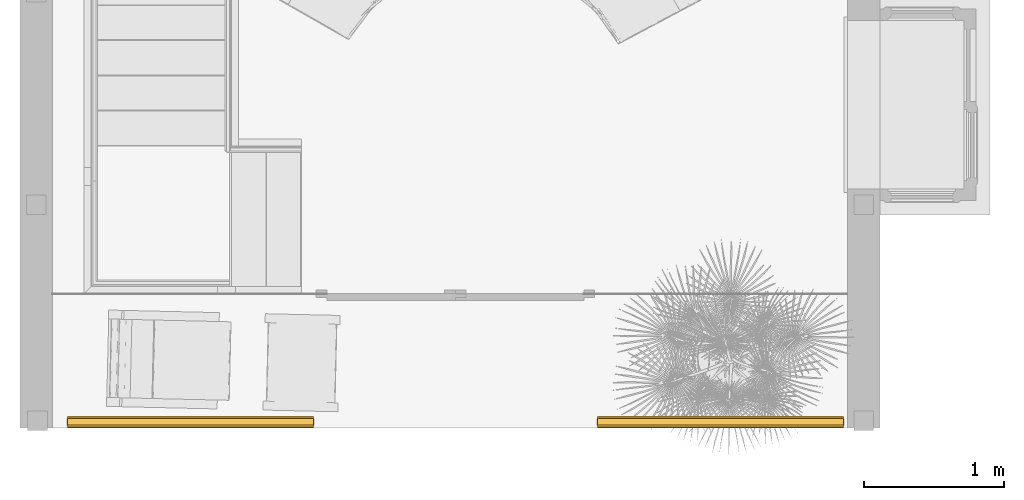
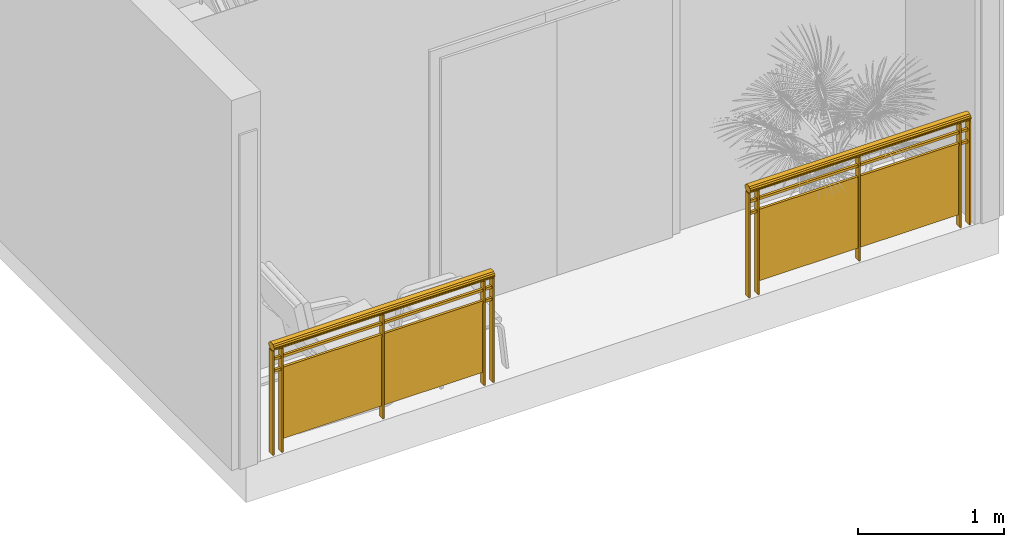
# One storey, part 4 of 7: 2 railings.
"""IFC2X3 building model written with IfcOpenShell, lengths in metres."""

from ifc_helpers import new_model, entity, si_unit, converted_unit, derived_unit, direction, frame, frame_2d, origin, origin_2d_with_axis, place, context, subcontext, project, spatial, polyline, rectangle, outline, extrude, material, material_list, type_object, element, save


model = new_model("IFC2X3")

# Units and contexts
model_context = context("Model", 3, precision=1e-05, world=origin(), true_north=direction((6.123233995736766e-17, 1.0)))
body_context = subcontext(model_context, "Body", "Model", "MODEL_VIEW")
ifc_project = project(units=[si_unit("LENGTHUNIT", "METRE"), si_unit("AREAUNIT", "SQUARE_METRE"), converted_unit("PLANEANGLEUNIT", "DEGREE", entity("IfcPlaneAngleMeasure", 0.017453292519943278), si_unit("PLANEANGLEUNIT", "RADIAN"), dimensions=[0, 0, 0, 0, 0, 0, 0]), derived_unit("THERMALTRANSMITTANCEUNIT", [(si_unit("MASSUNIT", "GRAM", prefix="KILO"), 1), (si_unit("THERMODYNAMICTEMPERATUREUNIT", "KELVIN"), -1), (si_unit("TIMEUNIT", "SECOND"), -3)])], contexts=[model_context])

# Site, building, storey
site_placement = place(None, origin())
site = spatial("IfcSite", under=ifc_project, at=site_placement, Name="Default", CompositionType="ELEMENT")
building_placement = place(site_placement, origin())
building = spatial("IfcBuilding", under=site, at=building_placement, CompositionType="ELEMENT")
storey_placement = place(building_placement, origin())
storey = spatial("IfcBuildingStorey", under=building, at=storey_placement, Name="0 - Ground Floor", CompositionType="ELEMENT", Elevation=0.0)

# Railings
ifc_material_1 = material(Name="Metal - Stainless Steel,Polished")
ifc_material_2 = material(Name="Glass")
ifc_material_3 = material(Name="<Unnamed>")
ifc_material_list = material_list([ifc_material_1, ifc_material_2, ifc_material_3])
railing_type = type_object("IfcRailingType", Name="Railing:Glass Panel - Bottom Fill", PredefinedType="NOTDEFINED")
railing_1_placement = place(storey_placement, origin())
element("IfcRailing", 1, at=railing_1_placement, inside=storey, type_object=railing_type, material=ifc_material_list, Name="Railing:Glass Panel - Bottom Fill", ObjectType="Railing:Glass Panel - Bottom Fill", PredefinedType="NOTDEFINED", context=body_context, shape_type="SweptSolid", body=[
    extrude(rectangle(XDim=0.05, YDim=0.01199999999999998, at=frame_2d((0.0, -2.706168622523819e-16), x_axis=(1.0, 0.0))), frame((3.249963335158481, -2.157338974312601, 0.0), z_axis=(0.0, 0.0, 1.0), x_axis=(0.0, -1.0, 0.0)), (0.0, 0.0, 1.0), 0.8699999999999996),
    extrude(rectangle(XDim=0.004999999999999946, YDim=0.7999999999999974, at=frame_2d((1.3530843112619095e-16, 2.7755575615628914e-16), x_axis=(1.0, 0.0))), frame((2.849963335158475, -2.161563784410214, 0.09999999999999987), z_axis=(0.0, 0.0, 1.0), x_axis=(0.0, -1.0, 0.0)), (0.0, 0.0, 1.0), 0.5799999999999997),
    extrude(rectangle(XDim=0.05, YDim=0.01199999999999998, at=frame_2d((0.0, -2.706168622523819e-16), x_axis=(1.0, 0.0))), frame((2.449963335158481, -2.1573389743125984, 0.0), z_axis=(0.0, 0.0, 1.0), x_axis=(0.0, -1.0, 0.0)), (0.0, 0.0, 1.0), 0.8699999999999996),
    extrude(rectangle(XDim=0.004999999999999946, YDim=0.7999999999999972, at=frame_2d((1.3530843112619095e-16, -1.3877787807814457e-16), x_axis=(1.0, 0.0))), frame((2.0499633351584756, -2.161563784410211, 0.09999999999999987), z_axis=(0.0, 0.0, 1.0), x_axis=(0.0, -1.0, 0.0)), (0.0, 0.0, 1.0), 0.5799999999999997),
    extrude(rectangle(XDim=0.05, YDim=0.01199999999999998, at=frame_2d((0.0, 2.706168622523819e-16), x_axis=(1.0, 0.0))), frame((1.6499633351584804, -2.1573389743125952, 0.0), z_axis=(0.0, 0.0, 1.0), x_axis=(0.0, -1.0, 0.0)), (0.0, 0.0, 1.0), 0.8699999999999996),
    extrude(rectangle(XDim=0.05, YDim=0.01199999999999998, at=frame_2d((0.0, -2.706168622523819e-16), x_axis=(1.0, 0.0))), frame((3.3229633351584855, -2.1573389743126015, 0.0), z_axis=(0.0, 0.0, 1.0), x_axis=(0.0, -1.0, 0.0)), (0.0, 0.0, 1.0), 0.8699999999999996),
    extrude(rectangle(XDim=0.05, YDim=0.01199999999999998, at=origin_2d_with_axis()), frame((1.5769633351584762, -2.157338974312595, 0.0), z_axis=(0.0, 0.0, 1.0), x_axis=(0.0, -1.0, 0.0)), (0.0, 0.0, 1.0), 0.8699999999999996),
    extrude(rectangle(XDim=1.7500000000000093, YDim=0.020000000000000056, at=frame_2d((0.0, 1.3530843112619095e-16), x_axis=(1.0, 0.0))), frame((2.4499633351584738, -2.1573389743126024, 0.78)), (0.0, 0.0, 1.0), 0.020000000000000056),
    extrude(rectangle(XDim=1.7500000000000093, YDim=0.020000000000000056, at=frame_2d((0.0, 1.3530843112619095e-16), x_axis=(1.0, 0.0))), frame((2.4499633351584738, -2.1573389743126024, 0.68)), (0.0, 0.0, 1.0), 0.020000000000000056),
    extrude(outline(polyline([(-0.010906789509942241, -0.03848430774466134), (0.001775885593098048, -0.03848430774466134), (0.014151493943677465, -0.0318300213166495), (0.024080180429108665, -0.019672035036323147), (0.029845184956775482, -0.004112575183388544), (0.030449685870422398, 0.01215798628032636), (0.02578915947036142, 0.026326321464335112), (0.016669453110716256, 0.03594259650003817), (0.010906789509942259, 0.0384843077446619), (-0.0017758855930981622, 0.03848430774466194), (-0.01415149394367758, 0.031830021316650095), (-0.02408018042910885, 0.01967203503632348), (-0.029845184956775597, 0.004112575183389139), (-0.030449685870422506, -0.012157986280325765), (-0.0257891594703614, -0.026326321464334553), (-0.01666945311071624, -0.03594259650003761), (-0.010906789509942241, -0.03848430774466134)])), frame((1.5749633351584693, -2.157948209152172, 0.9000000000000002), z_axis=(1.0, 0.0, 0.0), x_axis=(0.0, -0.27266973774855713, 0.9621076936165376)), (0.0, 0.0, 1.0), 1.7500000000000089),
])
railing_2_placement = place(storey_placement, origin())
element("IfcRailing", 2, at=railing_2_placement, inside=storey, type_object=railing_type, material=ifc_material_list, Name="Railing:Glass Panel - Bottom Fill", ObjectType="Railing:Glass Panel - Bottom Fill", PredefinedType="NOTDEFINED", context=body_context, shape_type="SweptSolid", body=[
    extrude(rectangle(XDim=0.05, YDim=0.01199999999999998, at=frame_2d((0.0, 3.382710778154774e-17), x_axis=(1.0, 0.0))), frame((-0.522924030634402, -2.1573389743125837, 0.0), z_axis=(0.0, 0.0, 1.0), x_axis=(0.0, -1.0, 0.0)), (0.0, 0.0, 1.0), 0.8699999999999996),
    extrude(rectangle(XDim=0.004999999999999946, YDim=0.7999999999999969, at=frame_2d((1.3530843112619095e-16, 0.0), x_axis=(1.0, 0.0))), frame((-0.9229240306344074, -2.1615637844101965, 0.09999999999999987), z_axis=(0.0, 0.0, 1.0), x_axis=(0.0, -1.0, 0.0)), (0.0, 0.0, 1.0), 0.5799999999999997),
    extrude(rectangle(XDim=0.05, YDim=0.01199999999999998, at=frame_2d((0.0, 2.706168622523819e-16), x_axis=(1.0, 0.0))), frame((-1.3229240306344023, -2.157338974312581, 0.0), z_axis=(0.0, 0.0, 1.0), x_axis=(0.0, -1.0, 0.0)), (0.0, 0.0, 1.0), 0.8699999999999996),
    extrude(rectangle(XDim=0.004999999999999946, YDim=0.7999999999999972, at=frame_2d((1.3530843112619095e-16, 1.3877787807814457e-16), x_axis=(1.0, 0.0))), frame((-1.7229240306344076, -2.161563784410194, 0.09999999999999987), z_axis=(0.0, 0.0, 1.0), x_axis=(0.0, -1.0, 0.0)), (0.0, 0.0, 1.0), 0.5799999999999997),
    extrude(rectangle(XDim=0.05, YDim=0.01199999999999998, at=frame_2d((0.0, 2.706168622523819e-16), x_axis=(1.0, 0.0))), frame((-2.1229240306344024, -2.157338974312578, 0.0), z_axis=(0.0, 0.0, 1.0), x_axis=(0.0, -1.0, 0.0)), (0.0, 0.0, 1.0), 0.8699999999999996),
    extrude(rectangle(XDim=0.05, YDim=0.01199999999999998, at=frame_2d((0.0, 3.382710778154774e-17), x_axis=(1.0, 0.0))), frame((-0.44992403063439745, -2.157338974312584, 0.0), z_axis=(0.0, 0.0, 1.0), x_axis=(0.0, -1.0, 0.0)), (0.0, 0.0, 1.0), 0.8699999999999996),
    extrude(rectangle(XDim=0.05, YDim=0.01199999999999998, at=origin_2d_with_axis()), frame((-2.1959240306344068, -2.1573389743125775, 0.0), z_axis=(0.0, 0.0, 1.0), x_axis=(0.0, -1.0, 0.0)), (0.0, 0.0, 1.0), 0.8699999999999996),
    extrude(rectangle(XDim=1.7500000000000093, YDim=0.020000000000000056, at=frame_2d((0.0, 1.3530843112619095e-16), x_axis=(1.0, 0.0))), frame((-1.322924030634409, -2.157338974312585, 0.78)), (0.0, 0.0, 1.0), 0.020000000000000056),
    extrude(rectangle(XDim=1.7500000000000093, YDim=0.020000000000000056, at=frame_2d((0.0, 1.3530843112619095e-16), x_axis=(1.0, 0.0))), frame((-1.322924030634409, -2.157338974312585, 0.68)), (0.0, 0.0, 1.0), 0.020000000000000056),
    extrude(outline(polyline([(-0.010906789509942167, -0.038484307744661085), (0.001775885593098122, -0.038484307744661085), (0.014151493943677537, -0.03183002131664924), (0.02408018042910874, -0.01967203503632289), (0.029845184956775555, -0.004112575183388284), (0.030449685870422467, 0.012157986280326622), (0.025789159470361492, 0.026326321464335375), (0.01666945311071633, 0.035942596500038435), (0.010906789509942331, 0.038484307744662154), (-0.0017758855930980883, 0.038484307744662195), (-0.014151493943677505, 0.03183002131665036), (-0.024080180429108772, 0.019672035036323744), (-0.029845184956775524, 0.004112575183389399), (-0.030449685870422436, -0.012157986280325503), (-0.025789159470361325, -0.026326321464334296), (-0.016669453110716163, -0.03594259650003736), (-0.010906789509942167, -0.038484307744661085)])), frame((-2.197924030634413, -2.157948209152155, 0.9000000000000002), z_axis=(1.0, 0.0, 0.0), x_axis=(0.0, -0.27266973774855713, 0.9621076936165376)), (0.0, 0.0, 1.0), 1.7500000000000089),
])

save(model, "model.ifc")
